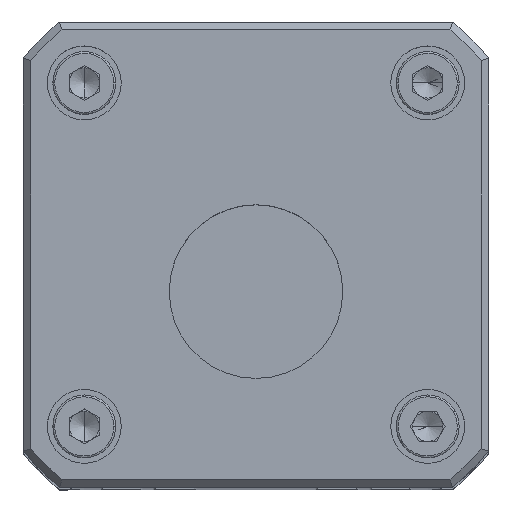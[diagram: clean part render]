
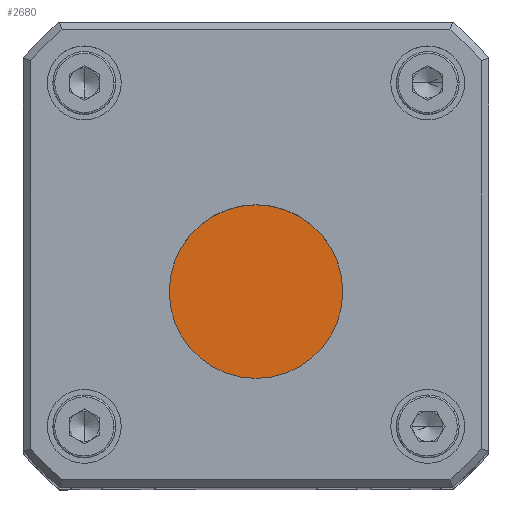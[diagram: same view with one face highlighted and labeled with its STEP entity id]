
A CAD part, top view. The second image highlights one B-rep face of the part: STEP entity #2680.
In plain terms, the highlighted planar face has unit normal (0, 0, 1).
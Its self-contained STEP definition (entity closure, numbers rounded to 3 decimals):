
#618 = AXIS2_PLACEMENT_3D ( 'NONE', #3638, #5825, #10383 ) ;
#1421 = EDGE_CURVE ( 'NONE', #3809, #13821, #12062, .T. ) ;
#1685 = FACE_OUTER_BOUND ( 'NONE', #9947, .T. ) ;
#1934 = CARTESIAN_POINT ( 'NONE',  ( 0., -344., 140. ) ) ;
#2680 = ADVANCED_FACE ( 'NONE', ( #1685 ), #9481, .F. ) ;
#2789 = AXIS2_PLACEMENT_3D ( 'NONE', #1934, #8568, #6345 ) ;
#3638 = CARTESIAN_POINT ( 'NONE',  ( 0., -344., 140. ) ) ;
#3809 = VERTEX_POINT ( 'NONE', #11052 ) ;
#4075 = AXIS2_PLACEMENT_3D ( 'NONE', #10718, #9583, #7405 ) ;
#5825 = DIRECTION ( 'NONE',  ( 0., 0., 1. ) ) ;
#6345 = DIRECTION ( 'NONE',  ( 1., 0., 0. ) ) ;
#7190 = ORIENTED_EDGE ( 'NONE', *, *, #1421, .T. ) ;
#7405 = DIRECTION ( 'NONE',  ( 0., 1., 0. ) ) ;
#8568 = DIRECTION ( 'NONE',  ( 0., 0., 1. ) ) ;
#9481 = PLANE ( 'NONE',  #4075 ) ;
#9583 = DIRECTION ( 'NONE',  ( 0., 0., -1. ) ) ;
#9947 = EDGE_LOOP ( 'NONE', ( #13218, #7190 ) ) ;
#10383 = DIRECTION ( 'NONE',  ( 1., 0., 0. ) ) ;
#10718 = CARTESIAN_POINT ( 'NONE',  ( 11.61, -327.35, 140. ) ) ;
#11052 = CARTESIAN_POINT ( 'NONE',  ( -11.75, -344., 140. ) ) ;
#11202 = EDGE_CURVE ( 'NONE', #13821, #3809, #11287, .T. ) ;
#11287 = CIRCLE ( 'NONE', #2789, 11.75 ) ;
#12062 = CIRCLE ( 'NONE', #618, 11.75 ) ;
#13078 = CARTESIAN_POINT ( 'NONE',  ( 11.75, -344., 140. ) ) ;
#13218 = ORIENTED_EDGE ( 'NONE', *, *, #11202, .T. ) ;
#13821 = VERTEX_POINT ( 'NONE', #13078 ) ;
